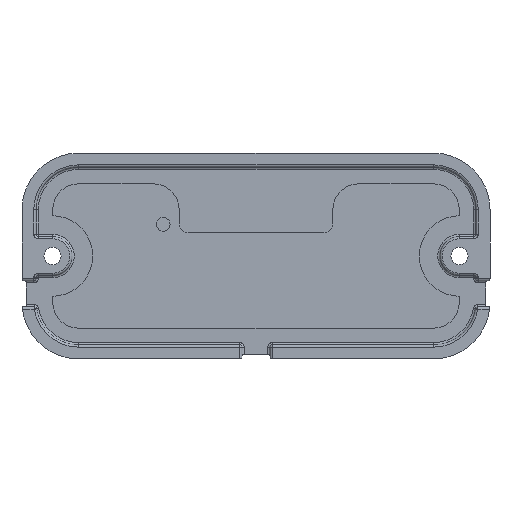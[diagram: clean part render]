
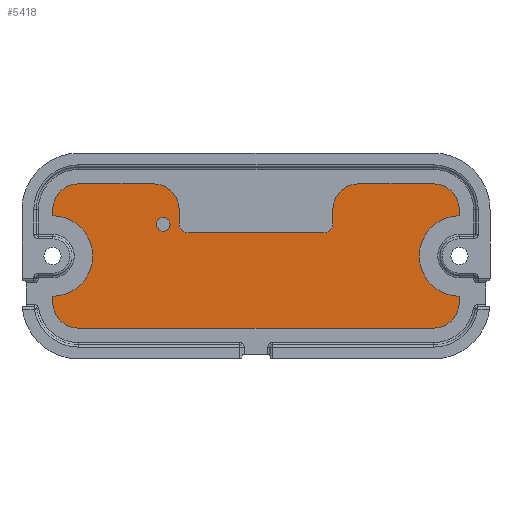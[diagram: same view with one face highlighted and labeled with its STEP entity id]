
A CAD part, front view. The second image highlights one B-rep face of the part: STEP entity #5418.
In plain terms, the highlighted planar face has unit normal (0, -1, 0).
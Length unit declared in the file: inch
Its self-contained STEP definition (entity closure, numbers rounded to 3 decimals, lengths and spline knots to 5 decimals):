
#16 = CARTESIAN_POINT ( 'NONE',  ( 0., 0.1675, -2.25 ) ) ;
#129 = DIRECTION ( 'NONE',  ( -1., 0., 0. ) ) ;
#131 = CARTESIAN_POINT ( 'NONE',  ( -0.475, 0.1675, 1.9 ) ) ;
#190 = CARTESIAN_POINT ( 'NONE',  ( 0.475, 0.1675, 2.375 ) ) ;
#228 = CARTESIAN_POINT ( 'NONE',  ( 0.95, 0.1675, 1.9 ) ) ;
#330 = VECTOR ( 'NONE', #6238, 39.37008 ) ;
#432 = FACE_BOUND ( 'NONE', #2086, .T. ) ;
#548 = DIRECTION ( 'NONE',  ( 0., 1., 0. ) ) ;
#640 = DIRECTION ( 'NONE',  ( 0., 0., 1. ) ) ;
#671 = EDGE_CURVE ( 'NONE', #3797, #6054, #3757, .T. ) ;
#754 = DIRECTION ( 'NONE',  ( 0., 0., 1. ) ) ;
#801 = CARTESIAN_POINT ( 'NONE',  ( -0.475, 0.1675, 2.375 ) ) ;
#810 = VECTOR ( 'NONE', #2347, 39.37008 ) ;
#880 = ORIENTED_EDGE ( 'NONE', *, *, #1290, .F. ) ;
#981 = DIRECTION ( 'NONE',  ( 0., 1., 0. ) ) ;
#1011 = CARTESIAN_POINT ( 'NONE',  ( 0., 0.1675, 2.345 ) ) ;
#1035 = AXIS2_PLACEMENT_3D ( 'NONE', #16, #4243, #640 ) ;
#1043 = CIRCLE ( 'NONE', #7710, 0.475 ) ;
#1130 = AXIS2_PLACEMENT_3D ( 'NONE', #6018, #2402, #6630 ) ;
#1149 = VERTEX_POINT ( 'NONE', #6028 ) ;
#1183 = CARTESIAN_POINT ( 'NONE',  ( 0., 0.1675, 2.25 ) ) ;
#1204 = DIRECTION ( 'NONE',  ( 0., 1., 0. ) ) ;
#1215 = AXIS2_PLACEMENT_3D ( 'NONE', #4586, #981, #5210 ) ;
#1290 = EDGE_CURVE ( 'NONE', #1757, #1149, #3293, .T. ) ;
#1492 = CIRCLE ( 'NONE', #5016, 0.475 ) ;
#1523 = VERTEX_POINT ( 'NONE', #5061 ) ;
#1528 = DIRECTION ( 'NONE',  ( 0., 1., 0. ) ) ;
#1614 = DIRECTION ( 'NONE',  ( 0., 0., -1. ) ) ;
#1740 = EDGE_CURVE ( 'NONE', #5341, #3520, #7701, .T. ) ;
#1757 = VERTEX_POINT ( 'NONE', #7140 ) ;
#1766 = ORIENTED_EDGE ( 'NONE', *, *, #5901, .T. ) ;
#1787 = DIRECTION ( 'NONE',  ( 0., 0., 1. ) ) ;
#1819 = VERTEX_POINT ( 'NONE', #4150 ) ;
#1989 = CARTESIAN_POINT ( 'NONE',  ( -0.475, 0.1675, 2.375 ) ) ;
#2059 = FACE_BOUND ( 'NONE', #6379, .T. ) ;
#2086 = EDGE_LOOP ( 'NONE', ( #880, #6941 ) ) ;
#2140 = LINE ( 'NONE', #801, #330 ) ;
#2347 = DIRECTION ( 'NONE',  ( 0., 0., -1. ) ) ;
#2402 = DIRECTION ( 'NONE',  ( 0., 1., 0. ) ) ;
#2589 = AXIS2_PLACEMENT_3D ( 'NONE', #3908, #3301, #6344 ) ;
#2649 = DIRECTION ( 'NONE',  ( 0., -1., 0. ) ) ;
#2759 = ORIENTED_EDGE ( 'NONE', *, *, #5246, .F. ) ;
#2916 = CARTESIAN_POINT ( 'NONE',  ( -0.475, 0.1675, -2.375 ) ) ;
#3093 = EDGE_CURVE ( 'NONE', #3441, #4269, #6731, .T. ) ;
#3113 = CARTESIAN_POINT ( 'NONE',  ( -0.95, 0.1675, 1.9 ) ) ;
#3151 = CARTESIAN_POINT ( 'NONE',  ( -0.35, 0.1675, -1.025 ) ) ;
#3158 = LINE ( 'NONE', #4631, #6196 ) ;
#3174 = VECTOR ( 'NONE', #129, 39.37008 ) ;
#3239 = ORIENTED_EDGE ( 'NONE', *, *, #3591, .T. ) ;
#3293 = CIRCLE ( 'NONE', #6549, 0.075 ) ;
#3301 = DIRECTION ( 'NONE',  ( 0., 1., 0. ) ) ;
#3358 = EDGE_CURVE ( 'NONE', #3862, #5758, #1043, .T. ) ;
#3359 = ORIENTED_EDGE ( 'NONE', *, *, #3093, .F. ) ;
#3441 = VERTEX_POINT ( 'NONE', #190 ) ;
#3520 = VERTEX_POINT ( 'NONE', #5316 ) ;
#3547 = ORIENTED_EDGE ( 'NONE', *, *, #671, .T. ) ;
#3591 = EDGE_CURVE ( 'NONE', #1819, #4661, #5966, .T. ) ;
#3733 = EDGE_LOOP ( 'NONE', ( #3547, #4057 ) ) ;
#3743 = ORIENTED_EDGE ( 'NONE', *, *, #5777, .F. ) ;
#3757 = CIRCLE ( 'NONE', #1035, 0.095 ) ;
#3759 = DIRECTION ( 'NONE',  ( 0., 0., -1. ) ) ;
#3797 = VERTEX_POINT ( 'NONE', #4913 ) ;
#3862 = VERTEX_POINT ( 'NONE', #3113 ) ;
#3908 = CARTESIAN_POINT ( 'NONE',  ( -0.475, 0.1675, -1.9 ) ) ;
#4057 = ORIENTED_EDGE ( 'NONE', *, *, #4818, .T. ) ;
#4150 = CARTESIAN_POINT ( 'NONE',  ( 0., 0.1675, 2.155 ) ) ;
#4161 = CARTESIAN_POINT ( 'NONE',  ( 0., 0.1675, 2.25 ) ) ;
#4243 = DIRECTION ( 'NONE',  ( 0., 1., 0. ) ) ;
#4254 = EDGE_CURVE ( 'NONE', #1149, #1757, #7852, .T. ) ;
#4269 = VERTEX_POINT ( 'NONE', #228 ) ;
#4323 = CARTESIAN_POINT ( 'NONE',  ( 0., 0.1675, -2.345 ) ) ;
#4362 = DIRECTION ( 'NONE',  ( 0., 1., 0. ) ) ;
#4395 = CIRCLE ( 'NONE', #7291, 0.095 ) ;
#4586 = CARTESIAN_POINT ( 'NONE',  ( 0.475, 0.1675, 1.9 ) ) ;
#4631 = CARTESIAN_POINT ( 'NONE',  ( -0.95, 0.1675, 1.9 ) ) ;
#4661 = VERTEX_POINT ( 'NONE', #1011 ) ;
#4772 = DIRECTION ( 'NONE',  ( 0., 0., 1. ) ) ;
#4777 = LINE ( 'NONE', #7397, #3174 ) ;
#4818 = EDGE_CURVE ( 'NONE', #6054, #3797, #5046, .T. ) ;
#4824 = CARTESIAN_POINT ( 'NONE',  ( -0.475, 0.1675, -1.9 ) ) ;
#4913 = CARTESIAN_POINT ( 'NONE',  ( 0., 0.1675, -2.155 ) ) ;
#5016 = AXIS2_PLACEMENT_3D ( 'NONE', #4824, #1204, #5432 ) ;
#5046 = CIRCLE ( 'NONE', #1130, 0.095 ) ;
#5061 = CARTESIAN_POINT ( 'NONE',  ( -0.95, 0.1675, -1.9 ) ) ;
#5072 = FACE_BOUND ( 'NONE', #3733, .T. ) ;
#5131 = PLANE ( 'NONE',  #2589 ) ;
#5135 = CARTESIAN_POINT ( 'NONE',  ( 0.475, 0.1675, -1.9 ) ) ;
#5200 = ORIENTED_EDGE ( 'NONE', *, *, #5538, .F. ) ;
#5210 = DIRECTION ( 'NONE',  ( 0., 0., 1. ) ) ;
#5223 = AXIS2_PLACEMENT_3D ( 'NONE', #5135, #1528, #5756 ) ;
#5246 = EDGE_CURVE ( 'NONE', #3520, #7776, #4777, .T. ) ;
#5315 = ORIENTED_EDGE ( 'NONE', *, *, #6460, .T. ) ;
#5316 = CARTESIAN_POINT ( 'NONE',  ( 0.475, 0.1675, -2.375 ) ) ;
#5341 = VERTEX_POINT ( 'NONE', #7455 ) ;
#5411 = DIRECTION ( 'NONE',  ( 0., 1., 0. ) ) ;
#5418 = ADVANCED_FACE ( 'NONE', ( #432, #2059, #5072, #6888 ), #5131, .F. ) ;
#5432 = DIRECTION ( 'NONE',  ( 0., 0., 1. ) ) ;
#5538 = EDGE_CURVE ( 'NONE', #7776, #1523, #1492, .T. ) ;
#5634 = LINE ( 'NONE', #5969, #810 ) ;
#5756 = DIRECTION ( 'NONE',  ( 0., 0., 1. ) ) ;
#5758 = VERTEX_POINT ( 'NONE', #1989 ) ;
#5777 = EDGE_CURVE ( 'NONE', #5758, #3441, #2140, .T. ) ;
#5901 = EDGE_CURVE ( 'NONE', #4661, #1819, #4395, .T. ) ;
#5966 = CIRCLE ( 'NONE', #7160, 0.095 ) ;
#5969 = CARTESIAN_POINT ( 'NONE',  ( 0.95, 0.1675, 1.9 ) ) ;
#5997 = ORIENTED_EDGE ( 'NONE', *, *, #1740, .F. ) ;
#6018 = CARTESIAN_POINT ( 'NONE',  ( 0., 0.1675, -2.25 ) ) ;
#6028 = CARTESIAN_POINT ( 'NONE',  ( -0.35, 0.1675, -0.95 ) ) ;
#6054 = VERTEX_POINT ( 'NONE', #4323 ) ;
#6196 = VECTOR ( 'NONE', #1614, 39.37008 ) ;
#6238 = DIRECTION ( 'NONE',  ( 1., 0., 0. ) ) ;
#6263 = CARTESIAN_POINT ( 'NONE',  ( -0.35, 0.1675, -1.025 ) ) ;
#6326 = ORIENTED_EDGE ( 'NONE', *, *, #3358, .F. ) ;
#6344 = DIRECTION ( 'NONE',  ( 0., 0., 1. ) ) ;
#6379 = EDGE_LOOP ( 'NONE', ( #1766, #3239 ) ) ;
#6460 = EDGE_CURVE ( 'NONE', #3862, #1523, #3158, .T. ) ;
#6549 = AXIS2_PLACEMENT_3D ( 'NONE', #3151, #7405, #3759 ) ;
#6596 = EDGE_CURVE ( 'NONE', #4269, #5341, #5634, .T. ) ;
#6630 = DIRECTION ( 'NONE',  ( 0., 0., 1. ) ) ;
#6731 = CIRCLE ( 'NONE', #1215, 0.475 ) ;
#6871 = AXIS2_PLACEMENT_3D ( 'NONE', #6263, #2649, #6891 ) ;
#6879 = ORIENTED_EDGE ( 'NONE', *, *, #6596, .F. ) ;
#6888 = FACE_OUTER_BOUND ( 'NONE', #7515, .T. ) ;
#6891 = DIRECTION ( 'NONE',  ( 0., 0., -1. ) ) ;
#6941 = ORIENTED_EDGE ( 'NONE', *, *, #4254, .F. ) ;
#7140 = CARTESIAN_POINT ( 'NONE',  ( -0.35, 0.1675, -1.1 ) ) ;
#7160 = AXIS2_PLACEMENT_3D ( 'NONE', #4161, #548, #4772 ) ;
#7291 = AXIS2_PLACEMENT_3D ( 'NONE', #1183, #5411, #1787 ) ;
#7397 = CARTESIAN_POINT ( 'NONE',  ( 0.475, 0.1675, -2.375 ) ) ;
#7405 = DIRECTION ( 'NONE',  ( 0., -1., 0. ) ) ;
#7455 = CARTESIAN_POINT ( 'NONE',  ( 0.95, 0.1675, -1.9 ) ) ;
#7515 = EDGE_LOOP ( 'NONE', ( #5200, #2759, #5997, #6879, #3359, #3743, #6326, #5315 ) ) ;
#7701 = CIRCLE ( 'NONE', #5223, 0.475 ) ;
#7710 = AXIS2_PLACEMENT_3D ( 'NONE', #131, #4362, #754 ) ;
#7776 = VERTEX_POINT ( 'NONE', #2916 ) ;
#7852 = CIRCLE ( 'NONE', #6871, 0.075 ) ;
